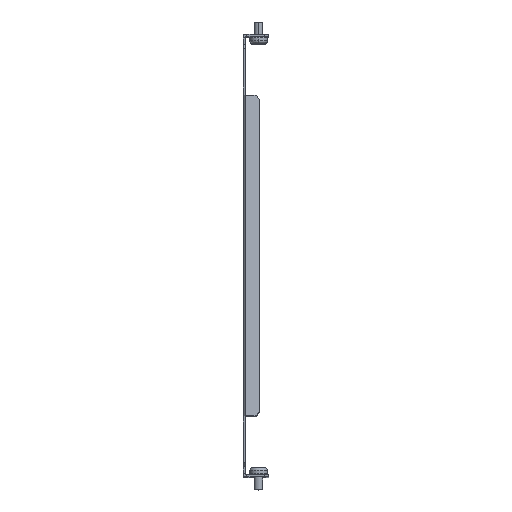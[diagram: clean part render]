
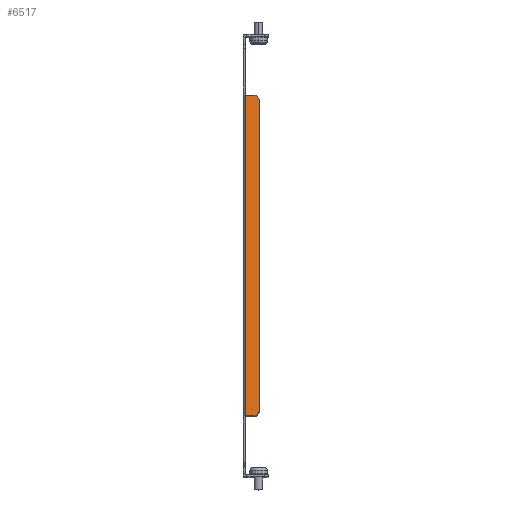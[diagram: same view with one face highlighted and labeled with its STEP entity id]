
A CAD part, top view. The second image highlights one B-rep face of the part: STEP entity #6517.
In plain terms, the highlighted planar face has unit normal (0.5, 0, 0.866).
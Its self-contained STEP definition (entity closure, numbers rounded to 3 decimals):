
#49 = ORIENTED_EDGE ( 'NONE', *, *, #12285, .T. ) ;
#194 = VERTEX_POINT ( 'NONE', #4426 ) ;
#656 = EDGE_CURVE ( 'NONE', #194, #1243, #12300, .T. ) ;
#737 = EDGE_CURVE ( 'NONE', #9737, #1243, #7822, .T. ) ;
#758 = ORIENTED_EDGE ( 'NONE', *, *, #656, .T. ) ;
#759 = DIRECTION ( 'NONE',  ( 0., -1., 0. ) ) ;
#1243 = VERTEX_POINT ( 'NONE', #1794 ) ;
#1307 = ORIENTED_EDGE ( 'NONE', *, *, #2995, .T. ) ;
#1794 = CARTESIAN_POINT ( 'NONE',  ( 8.803, 110.75, 195.114 ) ) ;
#1801 = DIRECTION ( 'NONE',  ( -0.866, 0., 0.5 ) ) ;
#1954 = FACE_OUTER_BOUND ( 'NONE', #5472, .T. ) ;
#2279 = VERTEX_POINT ( 'NONE', #10355 ) ;
#2995 = EDGE_CURVE ( 'NONE', #2279, #14140, #6389, .T. ) ;
#3110 = CARTESIAN_POINT ( 'NONE',  ( 11.401, -107.75, 193.614 ) ) ;
#3301 = DIRECTION ( 'NONE',  ( -0.866, 0., 0.5 ) ) ;
#3310 = VECTOR ( 'NONE', #14162, 1000. ) ;
#3930 = CARTESIAN_POINT ( 'NONE',  ( 4.5, -110.75, 197.598 ) ) ;
#3978 = CARTESIAN_POINT ( 'NONE',  ( 85.562, 0., 150.797 ) ) ;
#4126 = DIRECTION ( 'NONE',  ( 0.612, 0.707, -0.354 ) ) ;
#4233 = CARTESIAN_POINT ( 'NONE',  ( 11.401, 110.75, 193.614 ) ) ;
#4397 = LINE ( 'NONE', #9236, #13524 ) ;
#4426 = CARTESIAN_POINT ( 'NONE',  ( 11.401, 107.75, 193.614 ) ) ;
#4939 = VECTOR ( 'NONE', #1801, 1000. ) ;
#5003 = DIRECTION ( 'NONE',  ( -0.612, 0.707, 0.354 ) ) ;
#5277 = CARTESIAN_POINT ( 'NONE',  ( 1.268, -110.75, 199.464 ) ) ;
#5472 = EDGE_LOOP ( 'NONE', ( #49, #13141, #13972, #9058, #1307, #7051, #758, #13889 ) ) ;
#5793 = AXIS2_PLACEMENT_3D ( 'NONE', #3978, #8740, #13521 ) ;
#5835 = VERTEX_POINT ( 'NONE', #14552 ) ;
#6244 = EDGE_CURVE ( 'NONE', #2279, #10614, #9379, .T. ) ;
#6389 = LINE ( 'NONE', #14844, #8901 ) ;
#6517 = ADVANCED_FACE ( 'NONE', ( #1954 ), #14693, .F. ) ;
#7051 = ORIENTED_EDGE ( 'NONE', *, *, #14549, .F. ) ;
#7057 = VECTOR ( 'NONE', #759, 1000. ) ;
#7822 = LINE ( 'NONE', #4233, #9432 ) ;
#7854 = LINE ( 'NONE', #12637, #7057 ) ;
#8740 = DIRECTION ( 'NONE',  ( -0.5, 0., -0.866 ) ) ;
#8901 = VECTOR ( 'NONE', #4126, 1000. ) ;
#8984 = LINE ( 'NONE', #9997, #4939 ) ;
#9058 = ORIENTED_EDGE ( 'NONE', *, *, #6244, .F. ) ;
#9236 = CARTESIAN_POINT ( 'NONE',  ( 85.562, -110.75, 150.797 ) ) ;
#9379 = LINE ( 'NONE', #13065, #3310 ) ;
#9432 = VECTOR ( 'NONE', #10485, 1000. ) ;
#9737 = VERTEX_POINT ( 'NONE', #14623 ) ;
#9997 = CARTESIAN_POINT ( 'NONE',  ( 4.5, 110.75, 197.598 ) ) ;
#10183 = VECTOR ( 'NONE', #5003, 1000. ) ;
#10355 = CARTESIAN_POINT ( 'NONE',  ( 8.803, -110.75, 195.114 ) ) ;
#10485 = DIRECTION ( 'NONE',  ( 0.866, 0., -0.5 ) ) ;
#10614 = VERTEX_POINT ( 'NONE', #3930 ) ;
#11162 = LINE ( 'NONE', #13826, #13201 ) ;
#11236 = DIRECTION ( 'NONE',  ( 0., -1., 0. ) ) ;
#12285 = EDGE_CURVE ( 'NONE', #9737, #5835, #8984, .T. ) ;
#12300 = LINE ( 'NONE', #13391, #10183 ) ;
#12637 = CARTESIAN_POINT ( 'NONE',  ( 11.401, -110.75, 193.614 ) ) ;
#12709 = VERTEX_POINT ( 'NONE', #5277 ) ;
#12820 = EDGE_CURVE ( 'NONE', #5835, #12709, #11162, .T. ) ;
#13065 = CARTESIAN_POINT ( 'NONE',  ( 2.25, -110.75, 198.897 ) ) ;
#13141 = ORIENTED_EDGE ( 'NONE', *, *, #12820, .T. ) ;
#13201 = VECTOR ( 'NONE', #11236, 1000. ) ;
#13263 = EDGE_CURVE ( 'NONE', #10614, #12709, #4397, .T. ) ;
#13391 = CARTESIAN_POINT ( 'NONE',  ( 8.803, 110.75, 195.114 ) ) ;
#13521 = DIRECTION ( 'NONE',  ( -0.866, 0., 0.5 ) ) ;
#13524 = VECTOR ( 'NONE', #3301, 1000. ) ;
#13826 = CARTESIAN_POINT ( 'NONE',  ( 1.268, 0., 199.464 ) ) ;
#13889 = ORIENTED_EDGE ( 'NONE', *, *, #737, .F. ) ;
#13972 = ORIENTED_EDGE ( 'NONE', *, *, #13263, .F. ) ;
#14140 = VERTEX_POINT ( 'NONE', #3110 ) ;
#14162 = DIRECTION ( 'NONE',  ( -0.866, 0., 0.5 ) ) ;
#14549 = EDGE_CURVE ( 'NONE', #194, #14140, #7854, .T. ) ;
#14552 = CARTESIAN_POINT ( 'NONE',  ( 1.268, 110.75, 199.464 ) ) ;
#14623 = CARTESIAN_POINT ( 'NONE',  ( 4.5, 110.75, 197.598 ) ) ;
#14693 = PLANE ( 'NONE',  #5793 ) ;
#14844 = CARTESIAN_POINT ( 'NONE',  ( 11.401, -107.75, 193.614 ) ) ;
